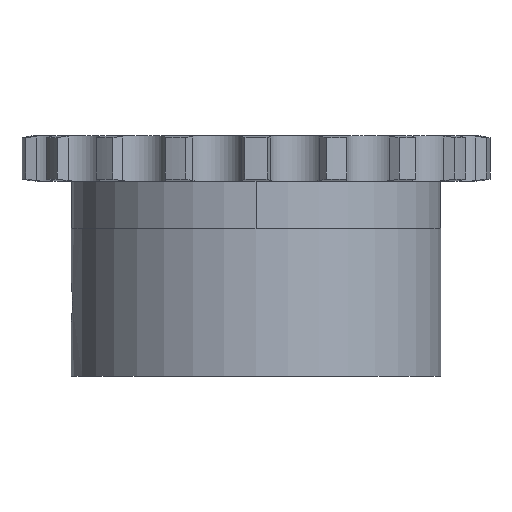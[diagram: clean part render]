
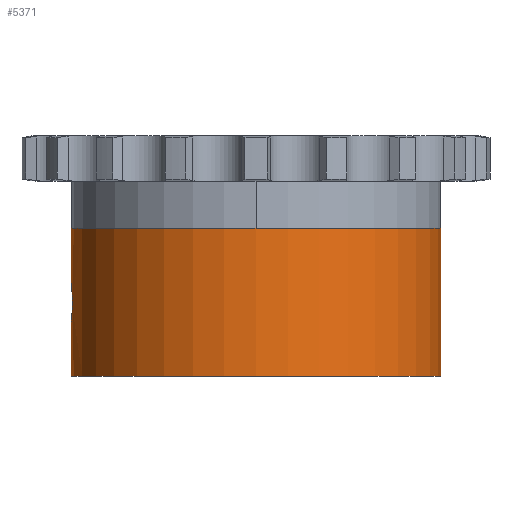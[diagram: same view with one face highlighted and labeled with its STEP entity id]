
A CAD part, front view. The second image highlights one B-rep face of the part: STEP entity #5371.
In plain terms, the highlighted cylindrical face has radius 21.5 mm (diameter 43 mm), a partial arc.
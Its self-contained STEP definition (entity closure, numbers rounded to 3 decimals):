
#1346=CARTESIAN_POINT('',(-21.5,0.,-14.25));
#1367=DIRECTION('',(0.,0.,1.));
#1368=VECTOR('',#1367,17.2);
#1369=CARTESIAN_POINT('',(21.5,0.,-25.35));
#1370=LINE('',#1369,#1368);
#1489=CARTESIAN_POINT('',(0.,0.,-25.35));
#1490=DIRECTION('',(0.,0.,-1.));
#1491=DIRECTION('',(1.,0.,0.));
#1492=AXIS2_PLACEMENT_3D('',#1489,#1490,#1491);
#1518=CARTESIAN_POINT('',(-21.5,0.,-14.25));
#1519=CARTESIAN_POINT('',(-21.5,-0.15,
-14.25));
#1520=CARTESIAN_POINT('',(-21.497,-0.446,
-14.276));
#1521=CARTESIAN_POINT('',(-21.483,-0.885,
-14.392));
#1522=CARTESIAN_POINT('',(-21.462,-1.292,
-14.58));
#1523=CARTESIAN_POINT('',(-21.437,-1.657,
-14.834));
#1524=CARTESIAN_POINT('',(-21.41,-1.973,
-15.148));
#1525=CARTESIAN_POINT('',(-21.384,-2.23,
-15.515));
#1526=CARTESIAN_POINT('',(-21.364,-2.415,
-15.916));
#1527=CARTESIAN_POINT('',(-21.351,-2.524,
-16.336));
#1528=CARTESIAN_POINT('',(-21.348,-2.547,
-16.612));
#1529=CARTESIAN_POINT('',(-21.348,-2.547,
-16.75));
#1534=DIRECTION('',(0.,0.,1.));
#1535=VECTOR('',#1534,6.1);
#1536=CARTESIAN_POINT('',(-21.5,0.,-14.25));
#1537=LINE('',#1536,#1535);
#1541=CARTESIAN_POINT('',(0.,0.,-8.15));
#1542=DIRECTION('',(0.,0.,1.));
#1543=DIRECTION('',(-1.,0.,0.));
#1544=AXIS2_PLACEMENT_3D('',#1541,#1542,#1543);
#1549=DIRECTION('',(0.,0.,1.));
#1550=VECTOR('',#1549,6.1);
#1551=CARTESIAN_POINT('',(-21.5,0.,-25.35));
#1552=LINE('',#1551,#1550);
#1556=CARTESIAN_POINT('',(-21.348,-2.547,
-16.75));
#1557=CARTESIAN_POINT('',(-21.348,-2.548,
-16.888));
#1558=CARTESIAN_POINT('',(-21.351,-2.525,
-17.163));
#1559=CARTESIAN_POINT('',(-21.364,-2.416,
-17.583));
#1560=CARTESIAN_POINT('',(-21.384,-2.231,
-17.984));
#1561=CARTESIAN_POINT('',(-21.41,-1.974,
-18.351));
#1562=CARTESIAN_POINT('',(-21.437,-1.657,
-18.665));
#1563=CARTESIAN_POINT('',(-21.462,-1.292,
-18.92));
#1564=CARTESIAN_POINT('',(-21.483,-0.885,
-19.108));
#1565=CARTESIAN_POINT('',(-21.497,-0.446,
-19.224));
#1566=CARTESIAN_POINT('',(-21.5,-0.15,
-19.25));
#1567=CARTESIAN_POINT('',(-21.5,0.,
-19.25));
#3553=CARTESIAN_POINT('',(-21.5,0.,-25.35));
#3554=CARTESIAN_POINT('',(21.5,0.,-25.35));
#3555=VERTEX_POINT('',#3553);
#3556=VERTEX_POINT('',#3554);
#3752=VERTEX_POINT('',#1346);
#3755=VERTEX_POINT('',#1529);
#3757=VERTEX_POINT('',#1567);
#3767=CARTESIAN_POINT('',(21.5,0.,-8.15));
#3768=CARTESIAN_POINT('',(-21.5,0.,-8.15));
#3769=VERTEX_POINT('',#3767);
#3770=VERTEX_POINT('',#3768);
#5355=CARTESIAN_POINT('',(0.,0.,2.65));
#5356=DIRECTION('',(0.,0.,1.));
#5357=DIRECTION('',(1.,0.,0.));
#5358=AXIS2_PLACEMENT_3D('',#5355,#5356,#5357);
#5359=CYLINDRICAL_SURFACE('',#5358,21.5);
#5361=ORIENTED_EDGE('',*,*,#5360,.F.);
#5362=ORIENTED_EDGE('',*,*,#5097,.T.);
#5363=ORIENTED_EDGE('',*,*,#5072,.T.);
#5364=ORIENTED_EDGE('',*,*,#5094,.F.);
#5365=ORIENTED_EDGE('',*,*,#5341,.T.);
#5366=ORIENTED_EDGE('',*,*,#5090,.T.);
#5368=ORIENTED_EDGE('',*,*,#5367,.F.);
#5369=EDGE_LOOP('',(#5361,#5362,#5363,#5364,#5365,#5366,#5368));
#5370=FACE_OUTER_BOUND('',#5369,.F.);
#5371=ADVANCED_FACE('',(#5370),#5359,.T.);
#1493=CIRCLE('',#1492,21.5);
#1530=B_SPLINE_CURVE_WITH_KNOTS('',3,(#1518,#1519,#1520,#1521,#1522,#1523,#1524,
#1525,#1526,#1527,#1528,#1529),.UNSPECIFIED.,.F.,.F.,(4,1,1,1,1,1,1,1,1,4),
(0.,0.111,0.222,0.333,0.444,
0.556,0.667,0.778,0.889,1.),
.UNSPECIFIED.);
#1545=CIRCLE('',#1544,21.5);
#1568=B_SPLINE_CURVE_WITH_KNOTS('',3,(#1556,#1557,#1558,#1559,#1560,#1561,#1562,
#1563,#1564,#1565,#1566,#1567),.UNSPECIFIED.,.F.,.F.,(4,1,1,1,1,1,1,1,1,4),
(0.,0.111,0.222,0.333,0.444,
0.556,0.667,0.778,0.889,1.),
.UNSPECIFIED.);
#5072=EDGE_CURVE('',#3770,#3769,#1545,.T.);
#5090=EDGE_CURVE('',#3555,#3757,#1552,.T.);
#5094=EDGE_CURVE('',#3556,#3769,#1370,.T.);
#5097=EDGE_CURVE('',#3752,#3770,#1537,.T.);
#5341=EDGE_CURVE('',#3556,#3555,#1493,.T.);
#5360=EDGE_CURVE('',#3752,#3755,#1530,.T.);
#5367=EDGE_CURVE('',#3755,#3757,#1568,.T.);
